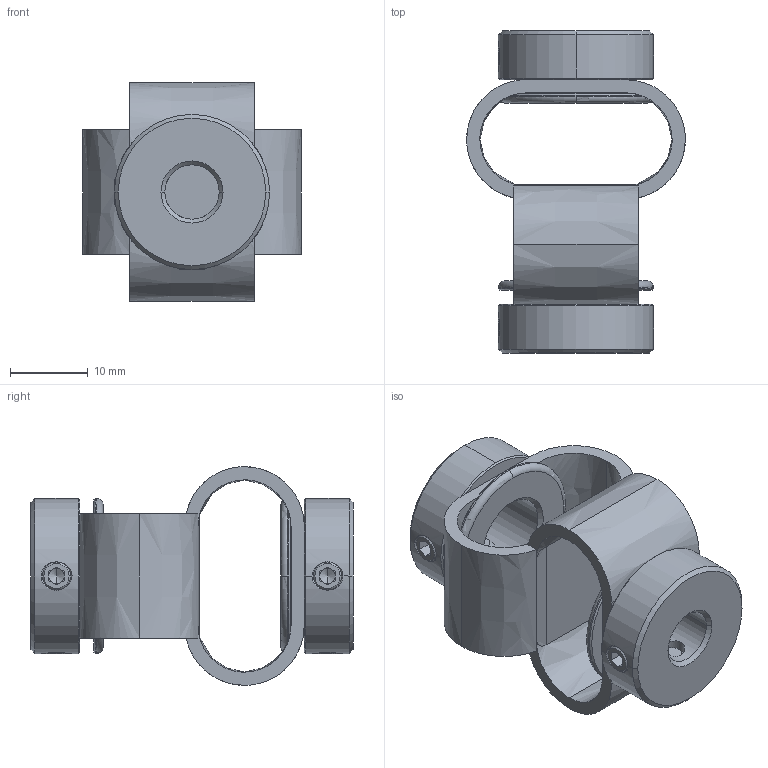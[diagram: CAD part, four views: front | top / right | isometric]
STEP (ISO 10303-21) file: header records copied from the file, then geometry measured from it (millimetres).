
FILE_DESCRIPTION (( 'STEP AP203' ), '1' );
FILE_NAME ('LS-D-D27L40-7-10.STEP', '2021-10-28T06:37:43', ( '' ), ( '' ), 'SwSTEP 2.0', 'SolidWorks 2018', '' );
FILE_SCHEMA (( 'CONFIG_CONTROL_DESIGN' ));
Length unit declared in the file: millimetre
Products named in the file (1): LS-D-D27L40-7-10
Bounding box: 28.2 x 41.54 x 28.2 mm (x, y, z)
Volume: 6787.3 mm3; surface area: 6678.2 mm2
Topology: 1 solids, 1 shells, 202 faces, 520 edges, 324 vertices
Faces by surface type: plane 86, cone 66, cylinder 30, bspline 16, torus 4
Entity records: 8075 total; most frequent: CARTESIAN_POINT 3263, ORIENTED_EDGE 1024, DIRECTION 930, EDGE_CURVE 512, AXIS2_PLACEMENT_3D 365, VERTEX_POINT 324, EDGE_LOOP 230, ADVANCED_FACE 202
